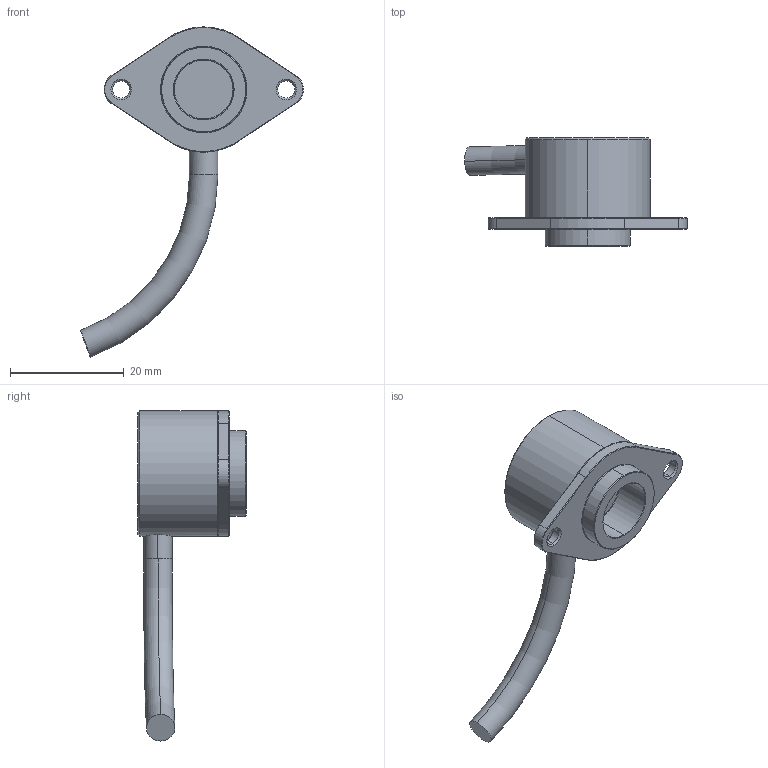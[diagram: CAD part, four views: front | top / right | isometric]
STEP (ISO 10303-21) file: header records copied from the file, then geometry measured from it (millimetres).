
FILE_DESCRIPTION (( 'STEP AP214' ), '1' );
FILE_NAME ('rm22-3d.step', '2017-05-17T13:13:06', ( '' ), ( '' ), 'SwSTEP 2.0', 'SolidWorks 2016', '' );
FILE_SCHEMA (( 'AUTOMOTIVE_DESIGN' ));
Length unit declared in the file: millimetre
Products named in the file (1): rm22-3d
Bounding box: 39.11 x 19 x 58 mm (x, y, z)
Volume: 7084.8 mm3; surface area: 3200.6 mm2
Topology: 1 solids, 1 shells, 68 faces, 151 edges, 89 vertices
Faces by surface type: cone 24, cylinder 19, plane 19, torus 6
Entity records: 1978 total; most frequent: CARTESIAN_POINT 415, DIRECTION 344, ORIENTED_EDGE 302, EDGE_CURVE 151, AXIS2_PLACEMENT_3D 144, VERTEX_POINT 89, EDGE_LOOP 76, CIRCLE 75
